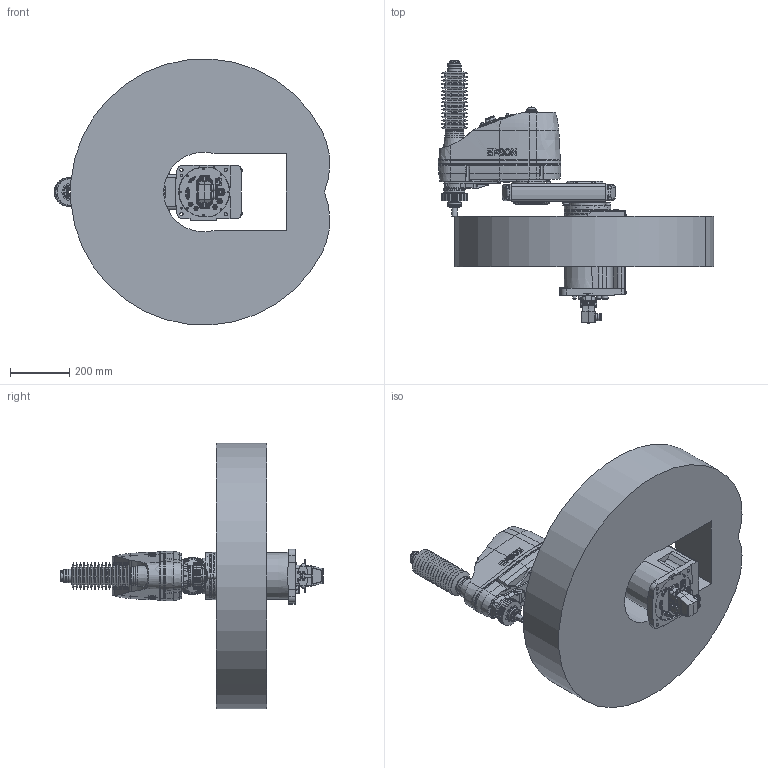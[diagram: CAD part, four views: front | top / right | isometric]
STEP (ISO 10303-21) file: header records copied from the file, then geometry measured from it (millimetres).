
FILE_DESCRIPTION( ( 'STEP AP214' ), '1' );
FILE_NAME( 'C:/Users/9607552/Desktop/GX8-B452CB_langle.stp', '2023-07-07T02:01:34', ( '' ), ( '' ), ' ', 'PARTsolutions', ' ' );
FILE_SCHEMA( ( 'AUTOMOTIVE_DESIGN { 1 0 10303 214 1 1 1 1 }' ) );
Length unit declared in the file: millimetre
Products named in the file (11): GX8-B452CB-AW; _B452CBbasegx8; _B452Sj1arm; _GX8-B452CBj1arm2; _GX8-B452CBj1arm1; _B452C_J2; _B452CZA; _1-B-long; _1-B-short; _Angle-B; _GX8-10-B_WS
Assembly tree (12 placements, depth 2):
  GX8-B452CB-AW
    _B452CBbasegx8
    _B452Sj1arm
    _GX8-B452CBj1arm2  x2
    _GX8-B452CBj1arm1  x2
    _B452C_J2
    _B452CZA
    _1-B-long
    _1-B-short
    _Angle-B
    _GX8-10-B_WS
Bounding box: 931.38 x 885.6 x 898.63 mm (x, y, z)
Volume: 112828770.4 mm3; surface area: 3168266.7 mm2
Topology: 12 solids, 17 shells, 3380 faces, 8200 edges, 5316 vertices
Faces by surface type: plane 1638, cylinder 1094, cone 448, torus 158, bspline 37, sphere 5
Full cylindrical faces by diameter (mm): 1 x48, 1.18 x55, 2.459 x12, 3 x32, 3.242 x20, 3.3 x4, 3.9 x4, 4.2 x6, 4.5 x12, 4.8 x5, 4.917 x2, 5.34 x4, 5.5 x17, 6 x5, 6.2 x2, 6.647 x4, 6.8 x2, 7 x48, 8 x5, 8.5 x6, 9 x24, 10 x18, 10.106 x1, 11 x4, 11.2 x7, 11.5 x1, 12 x5, 12.25 x1, 13 x3, 13.2 x12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
Entity records: 120663 total; most frequent: CARTESIAN_POINT 23026, DIRECTION 14916, ORIENTED_EDGE 13548, EDGE_CURVE 6774, AXIS2_PLACEMENT_3D 5841, VERTEX_POINT 4902, EDGE_LOOP 4550, FACE_OUTER_BOUND 3788
